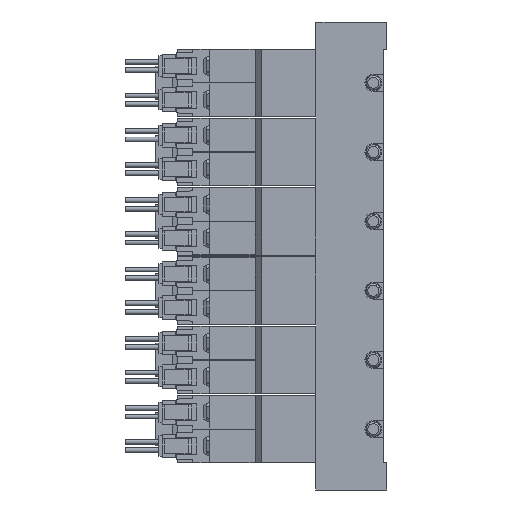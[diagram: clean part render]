
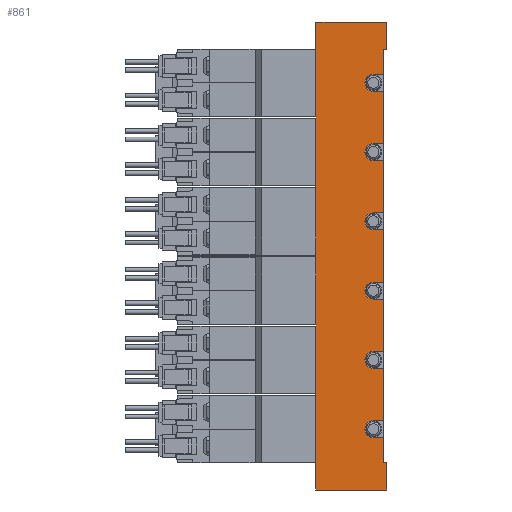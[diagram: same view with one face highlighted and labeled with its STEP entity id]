
A CAD part, left-side view. The second image highlights one B-rep face of the part: STEP entity #861.
In plain terms, the highlighted planar face has unit normal (-1, 0, 0) as drawn and (1, 0, 0) by its records, which use the part's own axes.
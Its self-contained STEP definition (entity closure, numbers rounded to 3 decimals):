
#861=ADVANCED_FACE('',(#1748),#1749,.F.);
#1748=FACE_OUTER_BOUND('',#2824,.T.);
#1749=PLANE('',#2825);
#2824=EDGE_LOOP('',(#6033,#6034,#6035,#6036,#6037,#6038,#6039,#6040,#6041,#6042,#6043,#6044,#6045,#6046,#6047,#6048,#6049,#6050,#6051,#6052,#6053,#6054,#6055,#6056,#6057,#6058,#6059,#6060,#6061,#6062,#6063,#6064));
#2825=AXIS2_PLACEMENT_3D('',#6065,#6066,#6067);
#6033=ORIENTED_EDGE('',*,*,#7696,.T.);
#6034=ORIENTED_EDGE('',*,*,#7697,.T.);
#6035=ORIENTED_EDGE('',*,*,#7698,.F.);
#6036=ORIENTED_EDGE('',*,*,#7699,.F.);
#6037=ORIENTED_EDGE('',*,*,#7700,.T.);
#6038=ORIENTED_EDGE('',*,*,#7701,.T.);
#6039=ORIENTED_EDGE('',*,*,#7702,.T.);
#6040=ORIENTED_EDGE('',*,*,#7703,.F.);
#6041=ORIENTED_EDGE('',*,*,#7704,.F.);
#6042=ORIENTED_EDGE('',*,*,#7705,.F.);
#6043=ORIENTED_EDGE('',*,*,#7706,.T.);
#6044=ORIENTED_EDGE('',*,*,#7707,.F.);
#6045=ORIENTED_EDGE('',*,*,#7708,.F.);
#6046=ORIENTED_EDGE('',*,*,#7709,.F.);
#6047=ORIENTED_EDGE('',*,*,#7710,.T.);
#6048=ORIENTED_EDGE('',*,*,#7711,.F.);
#6049=ORIENTED_EDGE('',*,*,#7674,.F.);
#6050=ORIENTED_EDGE('',*,*,#7712,.F.);
#6051=ORIENTED_EDGE('',*,*,#7713,.T.);
#6052=ORIENTED_EDGE('',*,*,#7714,.F.);
#6053=ORIENTED_EDGE('',*,*,#7715,.F.);
#6054=ORIENTED_EDGE('',*,*,#7716,.F.);
#6055=ORIENTED_EDGE('',*,*,#7717,.T.);
#6056=ORIENTED_EDGE('',*,*,#7718,.F.);
#6057=ORIENTED_EDGE('',*,*,#7719,.F.);
#6058=ORIENTED_EDGE('',*,*,#7720,.F.);
#6059=ORIENTED_EDGE('',*,*,#7721,.T.);
#6060=ORIENTED_EDGE('',*,*,#7722,.F.);
#6061=ORIENTED_EDGE('',*,*,#7668,.F.);
#6062=ORIENTED_EDGE('',*,*,#7723,.F.);
#6063=ORIENTED_EDGE('',*,*,#7724,.T.);
#6064=ORIENTED_EDGE('',*,*,#7725,.T.);
#6065=CARTESIAN_POINT('',(17.5,1.0,69.25));
#6066=DIRECTION('',(-1.0,0.0,0.0));
#6067=DIRECTION('',(0.0,0.0,1.0));
#7668=EDGE_CURVE('',#9409,#9411,#9412,.T.);
#7674=EDGE_CURVE('',#9421,#9423,#9424,.T.);
#7696=EDGE_CURVE('',#9466,#9467,#9468,.T.);
#7697=EDGE_CURVE('',#9467,#9469,#9470,.T.);
#7698=EDGE_CURVE('',#9471,#9469,#9472,.T.);
#7699=EDGE_CURVE('',#9473,#9471,#9474,.T.);
#7700=EDGE_CURVE('',#9473,#9475,#9476,.T.);
#7701=EDGE_CURVE('',#9475,#9477,#9478,.T.);
#7702=EDGE_CURVE('',#9477,#9479,#9480,.T.);
#7703=EDGE_CURVE('',#9481,#9479,#9482,.T.);
#7704=EDGE_CURVE('',#9483,#9481,#9484,.T.);
#7705=EDGE_CURVE('',#9485,#9483,#9486,.T.);
#7706=EDGE_CURVE('',#9485,#9487,#9488,.T.);
#7707=EDGE_CURVE('',#9489,#9487,#9490,.T.);
#7708=EDGE_CURVE('',#9491,#9489,#9492,.T.);
#7709=EDGE_CURVE('',#9493,#9491,#9494,.T.);
#7710=EDGE_CURVE('',#9493,#9495,#9496,.T.);
#7711=EDGE_CURVE('',#9423,#9495,#9497,.T.);
#7712=EDGE_CURVE('',#9498,#9421,#9499,.T.);
#7713=EDGE_CURVE('',#9498,#9500,#9501,.T.);
#7714=EDGE_CURVE('',#9502,#9500,#9503,.T.);
#7715=EDGE_CURVE('',#9504,#9502,#9505,.T.);
#7716=EDGE_CURVE('',#9506,#9504,#9507,.T.);
#7717=EDGE_CURVE('',#9506,#9508,#9509,.T.);
#7718=EDGE_CURVE('',#9510,#9508,#9511,.T.);
#7719=EDGE_CURVE('',#9512,#9510,#9513,.T.);
#7720=EDGE_CURVE('',#9514,#9512,#9515,.T.);
#7721=EDGE_CURVE('',#9514,#9516,#9517,.T.);
#7722=EDGE_CURVE('',#9411,#9516,#9518,.T.);
#7723=EDGE_CURVE('',#9519,#9409,#9520,.T.);
#7724=EDGE_CURVE('',#9519,#9521,#9522,.T.);
#7725=EDGE_CURVE('',#9521,#9466,#9523,.T.);
#9409=VERTEX_POINT('',#12503);
#9411=VERTEX_POINT('',#12506);
#9412=CIRCLE('',#12507,2.5);
#9421=VERTEX_POINT('',#12517);
#9423=VERTEX_POINT('',#12520);
#9424=CIRCLE('',#12521,2.5);
#9466=VERTEX_POINT('',#12576);
#9467=VERTEX_POINT('',#12577);
#9468=LINE('',#12578,#12579);
#9469=VERTEX_POINT('',#12580);
#9470=LINE('',#12581,#12582);
#9471=VERTEX_POINT('',#12583);
#9472=LINE('',#12584,#12585);
#9473=VERTEX_POINT('',#12586);
#9474=LINE('',#12587,#12588);
#9475=VERTEX_POINT('',#12589);
#9476=LINE('',#12590,#12591);
#9477=VERTEX_POINT('',#12592);
#9478=LINE('',#12593,#12594);
#9479=VERTEX_POINT('',#12595);
#9480=LINE('',#12596,#12597);
#9481=VERTEX_POINT('',#12598);
#9482=LINE('',#12599,#12600);
#9483=VERTEX_POINT('',#12601);
#9484=CIRCLE('',#12602,2.5);
#9485=VERTEX_POINT('',#12603);
#9486=LINE('',#12604,#12605);
#9487=VERTEX_POINT('',#12606);
#9488=LINE('',#12607,#12608);
#9489=VERTEX_POINT('',#12609);
#9490=LINE('',#12610,#12611);
#9491=VERTEX_POINT('',#12612);
#9492=CIRCLE('',#12613,2.5);
#9493=VERTEX_POINT('',#12614);
#9494=LINE('',#12615,#12616);
#9495=VERTEX_POINT('',#12617);
#9496=LINE('',#12618,#12619);
#9497=LINE('',#12620,#12621);
#9498=VERTEX_POINT('',#12622);
#9499=LINE('',#12623,#12624);
#9500=VERTEX_POINT('',#12625);
#9501=LINE('',#12626,#12627);
#9502=VERTEX_POINT('',#12628);
#9503=LINE('',#12629,#12630);
#9504=VERTEX_POINT('',#12631);
#9505=CIRCLE('',#12632,2.5);
#9506=VERTEX_POINT('',#12633);
#9507=LINE('',#12634,#12635);
#9508=VERTEX_POINT('',#12636);
#9509=LINE('',#12637,#12638);
#9510=VERTEX_POINT('',#12639);
#9511=LINE('',#12640,#12641);
#9512=VERTEX_POINT('',#12642);
#9513=CIRCLE('',#12643,2.5);
#9514=VERTEX_POINT('',#12644);
#9515=LINE('',#12645,#12646);
#9516=VERTEX_POINT('',#12647);
#9517=LINE('',#12648,#12649);
#9518=LINE('',#12650,#12651);
#9519=VERTEX_POINT('',#12652);
#9520=LINE('',#12653,#12654);
#9521=VERTEX_POINT('',#12655);
#9522=LINE('',#12656,#12657);
#9523=LINE('',#12658,#12659);
#12503=CARTESIAN_POINT('',(17.5,4.0,-53.75));
#12506=CARTESIAN_POINT('',(17.5,4.0,-48.75));
#12507=AXIS2_PLACEMENT_3D('',#14082,#14083,#14084);
#12517=CARTESIAN_POINT('',(17.5,4.0,7.75));
#12520=CARTESIAN_POINT('',(17.5,4.0,12.75));
#12521=AXIS2_PLACEMENT_3D('',#14096,#14097,#14098);
#12576=CARTESIAN_POINT('',(17.5,0.0,-61.25));
#12577=CARTESIAN_POINT('',(17.5,0.0,-69.25));
#12578=CARTESIAN_POINT('',(17.5,0.0,-61.25));
#12579=VECTOR('',#14136,1.0);
#12580=CARTESIAN_POINT('',(17.5,21.0,-69.25));
#12581=CARTESIAN_POINT('',(17.5,1.0,-69.25));
#12582=VECTOR('',#14137,1.0);
#12583=CARTESIAN_POINT('',(17.5,21.0,69.25));
#12584=CARTESIAN_POINT('',(17.5,21.0,69.25));
#12585=VECTOR('',#14138,1.0);
#12586=CARTESIAN_POINT('',(17.5,0.0,69.25));
#12587=CARTESIAN_POINT('',(17.5,1.0,69.25));
#12588=VECTOR('',#14139,1.0);
#12589=CARTESIAN_POINT('',(17.5,0.0,61.25));
#12590=CARTESIAN_POINT('',(17.5,0.0,69.25));
#12591=VECTOR('',#14140,1.0);
#12592=CARTESIAN_POINT('',(17.5,1.0,61.25));
#12593=CARTESIAN_POINT('',(17.5,0.0,61.25));
#12594=VECTOR('',#14141,1.0);
#12595=CARTESIAN_POINT('',(17.5,1.0,53.75));
#12596=CARTESIAN_POINT('',(17.5,1.0,69.25));
#12597=VECTOR('',#14142,1.0);
#12598=CARTESIAN_POINT('',(17.5,4.0,53.75));
#12599=CARTESIAN_POINT('',(17.5,1.0,53.75));
#12600=VECTOR('',#14143,1.0);
#12601=CARTESIAN_POINT('',(17.5,4.0,48.75));
#12602=AXIS2_PLACEMENT_3D('',#14144,#14145,#14146);
#12603=CARTESIAN_POINT('',(17.5,1.0,48.75));
#12604=CARTESIAN_POINT('',(17.5,1.0,48.75));
#12605=VECTOR('',#14147,1.0);
#12606=CARTESIAN_POINT('',(17.5,1.0,33.25));
#12607=CARTESIAN_POINT('',(17.5,1.0,69.25));
#12608=VECTOR('',#14148,1.0);
#12609=CARTESIAN_POINT('',(17.5,4.0,33.25));
#12610=CARTESIAN_POINT('',(17.5,1.0,33.25));
#12611=VECTOR('',#14149,1.0);
#12612=CARTESIAN_POINT('',(17.5,4.0,28.25));
#12613=AXIS2_PLACEMENT_3D('',#14150,#14151,#14152);
#12614=CARTESIAN_POINT('',(17.5,1.0,28.25));
#12615=CARTESIAN_POINT('',(17.5,1.0,28.25));
#12616=VECTOR('',#14153,1.0);
#12617=CARTESIAN_POINT('',(17.5,1.0,12.75));
#12618=CARTESIAN_POINT('',(17.5,1.0,69.25));
#12619=VECTOR('',#14154,1.0);
#12620=CARTESIAN_POINT('',(17.5,1.0,12.75));
#12621=VECTOR('',#14155,1.0);
#12622=CARTESIAN_POINT('',(17.5,1.0,7.75));
#12623=CARTESIAN_POINT('',(17.5,1.0,7.75));
#12624=VECTOR('',#14156,1.0);
#12625=CARTESIAN_POINT('',(17.5,1.0,-7.75));
#12626=CARTESIAN_POINT('',(17.5,1.0,69.25));
#12627=VECTOR('',#14157,1.0);
#12628=CARTESIAN_POINT('',(17.5,4.0,-7.75));
#12629=CARTESIAN_POINT('',(17.5,1.0,-7.75));
#12630=VECTOR('',#14158,1.0);
#12631=CARTESIAN_POINT('',(17.5,4.0,-12.75));
#12632=AXIS2_PLACEMENT_3D('',#14159,#14160,#14161);
#12633=CARTESIAN_POINT('',(17.5,1.0,-12.75));
#12634=CARTESIAN_POINT('',(17.5,1.0,-12.75));
#12635=VECTOR('',#14162,1.0);
#12636=CARTESIAN_POINT('',(17.5,1.0,-28.25));
#12637=CARTESIAN_POINT('',(17.5,1.0,69.25));
#12638=VECTOR('',#14163,1.0);
#12639=CARTESIAN_POINT('',(17.5,4.0,-28.25));
#12640=CARTESIAN_POINT('',(17.5,1.0,-28.25));
#12641=VECTOR('',#14164,1.0);
#12642=CARTESIAN_POINT('',(17.5,4.0,-33.25));
#12643=AXIS2_PLACEMENT_3D('',#14165,#14166,#14167);
#12644=CARTESIAN_POINT('',(17.5,1.0,-33.25));
#12645=CARTESIAN_POINT('',(17.5,1.0,-33.25));
#12646=VECTOR('',#14168,1.0);
#12647=CARTESIAN_POINT('',(17.5,1.0,-48.75));
#12648=CARTESIAN_POINT('',(17.5,1.0,69.25));
#12649=VECTOR('',#14169,1.0);
#12650=CARTESIAN_POINT('',(17.5,1.0,-48.75));
#12651=VECTOR('',#14170,1.0);
#12652=CARTESIAN_POINT('',(17.5,1.0,-53.75));
#12653=CARTESIAN_POINT('',(17.5,1.0,-53.75));
#12654=VECTOR('',#14171,1.0);
#12655=CARTESIAN_POINT('',(17.5,1.0,-61.25));
#12656=CARTESIAN_POINT('',(17.5,1.0,69.25));
#12657=VECTOR('',#14172,1.0);
#12658=CARTESIAN_POINT('',(17.5,4.0,-61.25));
#12659=VECTOR('',#14173,1.0);
#14082=CARTESIAN_POINT('',(17.5,4.0,-51.25));
#14083=DIRECTION('',(1.0,0.0,-0.0));
#14084=DIRECTION('',(0.0,0.0,1.0));
#14096=CARTESIAN_POINT('',(17.5,4.0,10.25));
#14097=DIRECTION('',(1.0,0.0,-0.0));
#14098=DIRECTION('',(0.0,0.0,1.0));
#14136=DIRECTION('',(0.0,0.0,-1.0));
#14137=DIRECTION('',(0.0,1.0,0.0));
#14138=DIRECTION('',(0.0,0.0,-1.0));
#14139=DIRECTION('',(0.0,1.0,0.0));
#14140=DIRECTION('',(0.0,0.0,-1.0));
#14141=DIRECTION('',(0.0,1.0,0.0));
#14142=DIRECTION('',(0.0,0.0,-1.0));
#14143=DIRECTION('',(0.0,-1.0,0.0));
#14144=CARTESIAN_POINT('',(17.5,4.0,51.25));
#14145=DIRECTION('',(1.0,0.0,-0.0));
#14146=DIRECTION('',(0.0,0.0,1.0));
#14147=DIRECTION('',(0.0,1.0,0.0));
#14148=DIRECTION('',(0.0,0.0,-1.0));
#14149=DIRECTION('',(0.0,-1.0,0.0));
#14150=CARTESIAN_POINT('',(17.5,4.0,30.75));
#14151=DIRECTION('',(1.0,0.0,-0.0));
#14152=DIRECTION('',(0.0,0.0,1.0));
#14153=DIRECTION('',(0.0,1.0,0.0));
#14154=DIRECTION('',(0.0,0.0,-1.0));
#14155=DIRECTION('',(0.0,-1.0,0.0));
#14156=DIRECTION('',(0.0,1.0,0.0));
#14157=DIRECTION('',(0.0,0.0,-1.0));
#14158=DIRECTION('',(0.0,-1.0,0.0));
#14159=CARTESIAN_POINT('',(17.5,4.0,-10.25));
#14160=DIRECTION('',(1.0,0.0,-0.0));
#14161=DIRECTION('',(0.0,0.0,1.0));
#14162=DIRECTION('',(0.0,1.0,0.0));
#14163=DIRECTION('',(0.0,0.0,-1.0));
#14164=DIRECTION('',(0.0,-1.0,0.0));
#14165=CARTESIAN_POINT('',(17.5,4.0,-30.75));
#14166=DIRECTION('',(1.0,0.0,-0.0));
#14167=DIRECTION('',(0.0,0.0,1.0));
#14168=DIRECTION('',(0.0,1.0,0.0));
#14169=DIRECTION('',(0.0,0.0,-1.0));
#14170=DIRECTION('',(0.0,-1.0,0.0));
#14171=DIRECTION('',(0.0,1.0,0.0));
#14172=DIRECTION('',(0.0,0.0,-1.0));
#14173=DIRECTION('',(0.0,-1.0,0.0));
